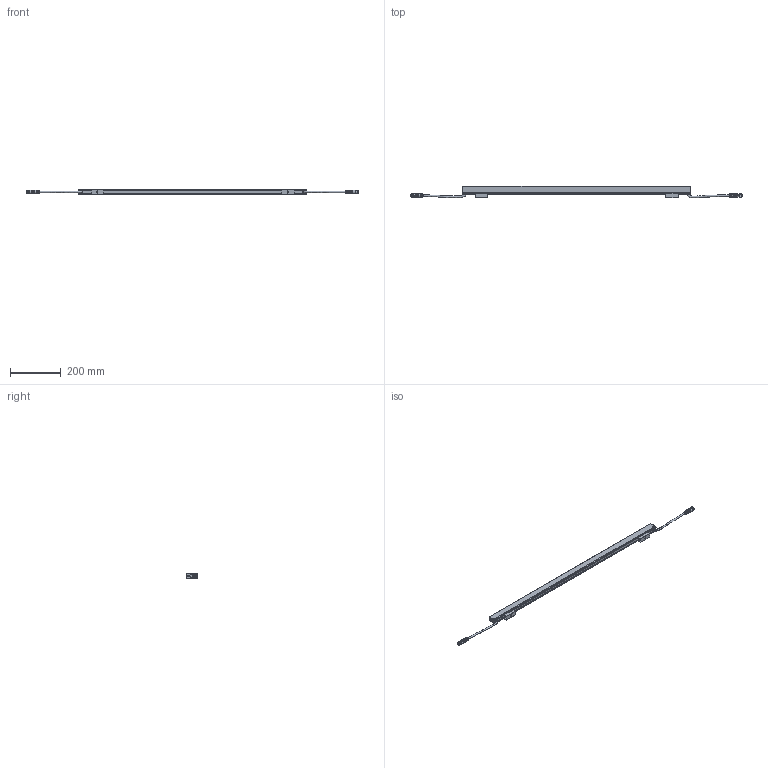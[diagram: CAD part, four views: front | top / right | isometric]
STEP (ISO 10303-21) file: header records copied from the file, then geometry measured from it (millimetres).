
FILE_DESCRIPTION (( 'STEP AP214' ), '1' );
FILE_NAME ('DiGi Linear V-Series L900 Flat.STEP', '2025-07-22T11:40:48', ( '' ), ( '' ), 'SwSTEP 2.0', 'SolidWorks 2025', '' );
FILE_SCHEMA (( 'AUTOMOTIVE_DESIGN' ));
Length unit declared in the file: millimetre
Products named in the file (7): DiGi Linear V-serie - Clip; M12 3p Male; DiGi Linear V-serie - Cabling_L900; M12 3p Female; DiGi Linear V-serie - Body_L900 Flat; Counter sunk screw torx_M2x6; DiGi Linear V-Series L900 Flat
Assembly tree (10 placements, depth 2):
  DiGi Linear V-Series L900 Flat
    DiGi Linear V-serie - Body_L900 Flat
    DiGi Linear V-serie - Clip  x2
    M12 3p Male
    M12 3p Female
    DiGi Linear V-serie - Cabling_L900
    Counter sunk screw torx_M2x6  x4
Bounding box: 1307.4 x 46 x 18.3 mm (x, y, z)
Volume: 490818.9 mm3; surface area: 126458 mm2
Topology: 13 solids, 13 shells, 1281 faces, 3215 edges, 2004 vertices
Faces by surface type: plane 490, cylinder 354, bspline 184, torus 161, cone 80, sphere 12
Full cylindrical faces by diameter (mm): 2 x4, 2.4 x4, 3 x4, 6.5 x6, 9.7 x1, 10 x2, 10.8 x1, 12.3 x1, 14.3 x2
Entity records: 53818 total; most frequent: CARTESIAN_POINT 17185, ORIENTED_EDGE 5798, DIRECTION 4799, EDGE_CURVE 2899, VERTEX_POINT 1820, AXIS2_PLACEMENT_3D 1808, EDGE_LOOP 1277, FACE_OUTER_BOUND 1205
